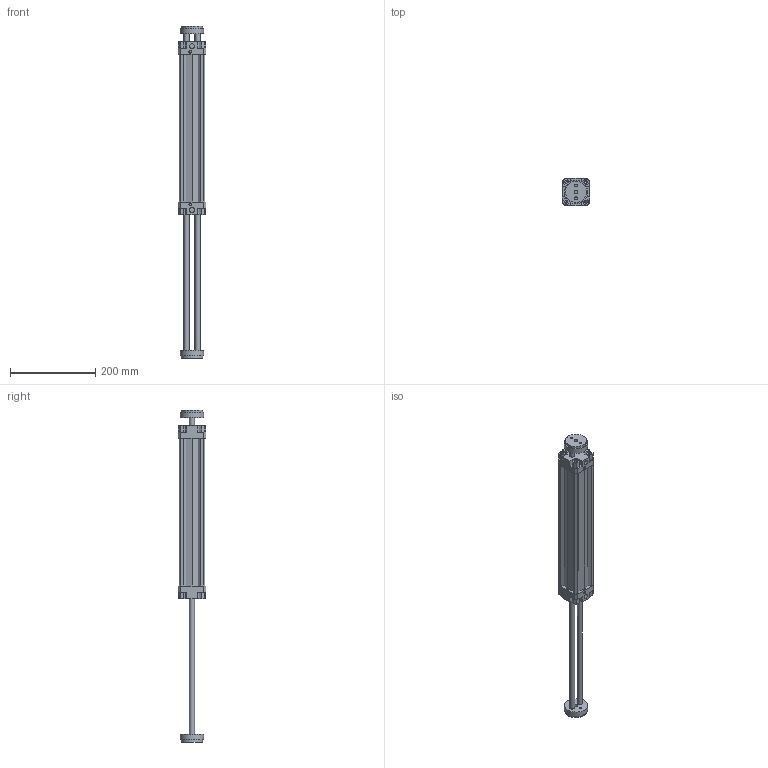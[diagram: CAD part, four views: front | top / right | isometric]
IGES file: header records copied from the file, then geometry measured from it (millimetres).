
Global section: file name: 132#_050_0300_06; native system: Autodesk Inventor 2014; preprocessor: unknown; author: A. Manieri; date: 20161006.155810; units: millimetre
Bounding box: 65 x 65 x 780 mm (x, y, z)
Volume: 901684.9 mm3; surface area: 266255 mm2
Topology: 2 solids, 2 shells, 190 faces, 518 edges, 354 vertices
Faces by surface type: bspline 190
